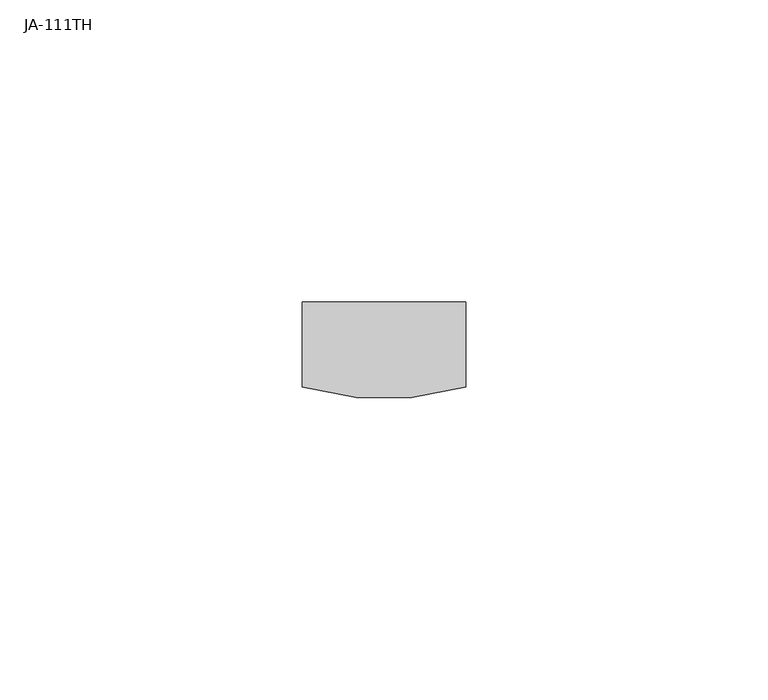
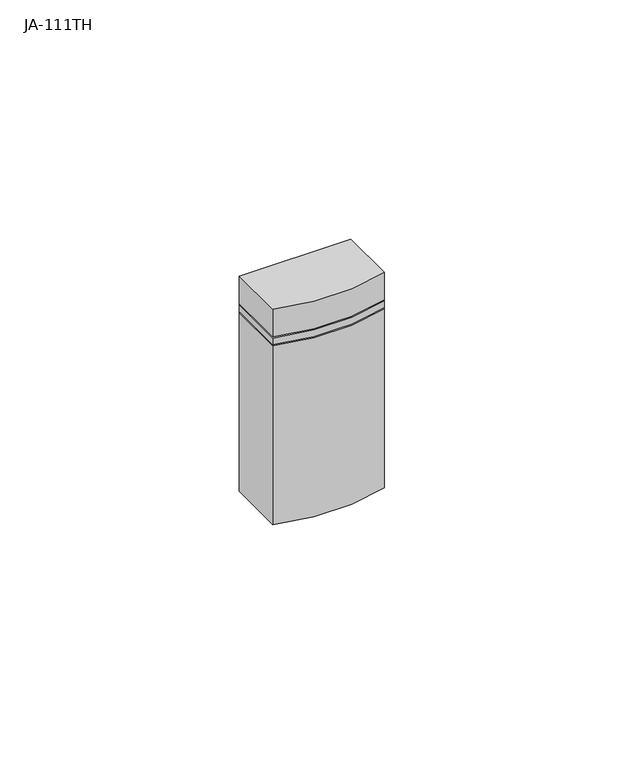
"""IFC4 building model written with IfcOpenShell, lengths in millimetres: proxy geometry, Environmentální detektory.CC : JA-111TH."""

from ifc_helpers import new_model, si_unit, point, frame, frame_2d, origin, place, context, project, spatial, polyline, circle_curve, trimmed, segment, composite_curve, outline, extrude, source, transform, mapped, element, save


def ja_111th_184f4ea3(model_context):
    return source(origin(), model_context, "Body", "SweptSolid", [
        extrude(outline(composite_curve([segment(polyline([(13.5, 0.0), (13.5, -14.0)]), True, "CONTINUOUS"), segment(trimmed(circle_curve(frame_2d((0.0, 30.5625)), 46.5625), [point((13.5, -14.0))], [point((-13.5, -14.0))], False, "CARTESIAN"), True, "CONTINUOUS"), segment(polyline([(-13.5, -14.0), (-13.5, 0.0), (13.5, 0.0)]), True, "CONTINUOUS")], self_intersect=False)), frame((0.0, 0.0, -27.5), z_axis=(0.0, 0.0, 1.0), x_axis=(1.0, 0.0, 0.0)), (0.0, 0.0, 1.0), 45.6772998),
        extrude(outline(composite_curve([segment(polyline([(13.5, 0.0), (13.5, -14.0)]), True, "CONTINUOUS"), segment(trimmed(circle_curve(frame_2d((0.0, 30.5625)), 46.5625), [point((13.5, -14.0))], [point((-13.5, -14.0))], False, "CARTESIAN"), True, "CONTINUOUS"), segment(polyline([(-13.5, -14.0), (-13.5, 0.0), (13.5, 0.0)]), True, "CONTINUOUS")], self_intersect=False)), frame((0.0, 0.0, 18.1772998), z_axis=(0.0, 0.0, 1.0), x_axis=(1.0, 0.0, 0.0)), (0.0, 0.0, 1.0), 2.0),
        extrude(outline(composite_curve([segment(polyline([(13.5, 0.0), (13.5, -14.0)]), True, "CONTINUOUS"), segment(trimmed(circle_curve(frame_2d((0.0, 30.5625)), 46.5625), [point((13.5, -14.0))], [point((-13.5, -14.0))], False, "CARTESIAN"), True, "CONTINUOUS"), segment(polyline([(-13.5, -14.0), (-13.5, 0.0), (13.5, 0.0)]), True, "CONTINUOUS")], self_intersect=False)), frame((0.0, 0.0, 20.1772998), z_axis=(0.0, 0.0, 1.0), x_axis=(1.0, 0.0, 0.0)), (0.0, 0.0, 1.0), 7.3227002),
    ])


if __name__ == "__main__":
    model = new_model("IFC4")
    model_context = context("Model", 3, world=origin())
    ifc_project = project(units=[si_unit("LENGTHUNIT", "METRE", prefix="MILLI")], contexts=[model_context])
    site = spatial("IfcSite", under=ifc_project)
    building = spatial("IfcBuilding", under=site)
    placement = place(None, origin())
    ja_111th_shape = ja_111th_184f4ea3(model_context)
    element("IfcBuildingElementProxy", 1, Name="Environmentální detektory.CC : JA-111TH", ObjectType="Environmentální detektory.CC : JA-111TH", at=placement, inside=building, context=model_context, shape_type="MappedRepresentation", body=[
        mapped(ja_111th_shape, transform((0.0, 0.0, 0.0), x_axis=(1.0, 0.0, 0.0), y_axis=(0.0, 1.0, 0.0), z_axis=(0.0, 0.0, 1.0))),
    ])
    save(model, "model.ifc")
